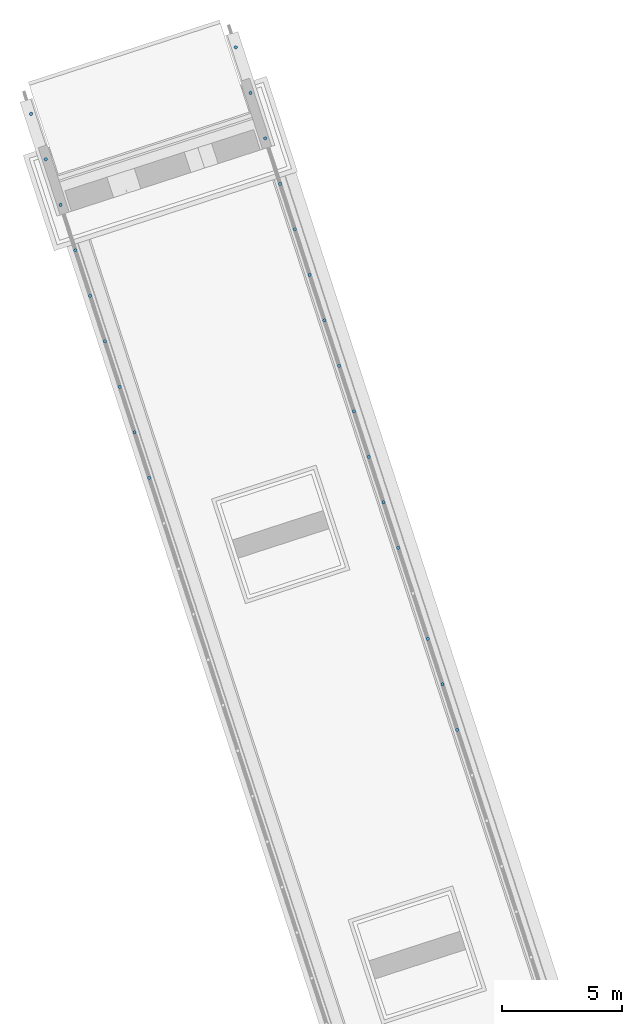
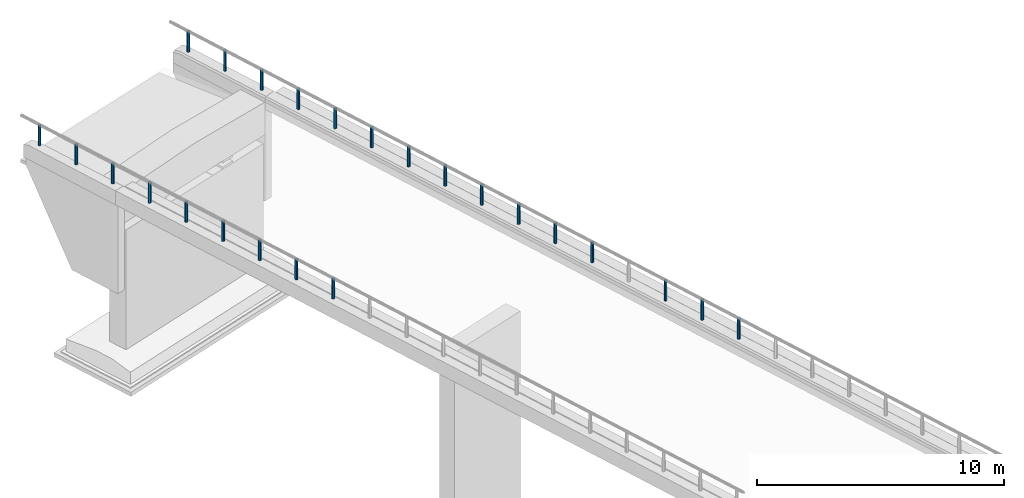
# Not in any storey, part 4 of 10: 24 members, 2 elements without a shape of their own.
"""IFC4X3_ADD2 model written with IfcOpenShell, lengths in metres."""

from ifc_helpers import new_model, entity, si_unit, converted_unit, derived_unit, direction, frame, origin, origin_2d, place, context, subcontext, project, library, spatial, circle, extrude, source, transform, mapped, type_object, type_shapes, element, aggregate, save


model = new_model("IFC4X3_ADD2")

# Units and contexts
model_context = context("Model", 3, precision=1e-05, world=origin(), true_north=direction((-0.011993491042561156, 0.9999280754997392)))
plan_context = context("Plan", 2, precision=1e-05, world=origin_2d())
body_context = subcontext(model_context, "Body", "Model", "MODEL_VIEW")
ifc_project = project(units=[si_unit("LENGTHUNIT", "METRE"), si_unit("AREAUNIT", "SQUARE_METRE"), si_unit("VOLUMEUNIT", "CUBIC_METRE"), si_unit("MASSUNIT", "GRAM", prefix="KILO"), converted_unit("TIMEUNIT", "year", entity("IfcTimeMeasure", 31557600.0), si_unit("TIMEUNIT", "SECOND"), dimensions=[0, 0, 1, 0, 0, 0, 0]), si_unit("PLANEANGLEUNIT", "RADIAN"), si_unit("THERMODYNAMICTEMPERATUREUNIT", "DEGREE_CELSIUS"), si_unit("FORCEUNIT", "NEWTON", prefix="KILO"), si_unit("PRESSUREUNIT", "PASCAL", prefix="MEGA"), si_unit("SOLIDANGLEUNIT", "STERADIAN"), derived_unit("MASSDENSITYUNIT", [(si_unit("MASSUNIT", "GRAM", prefix="KILO"), 1), (si_unit("VOLUMEUNIT", "CUBIC_METRE"), -1)]), derived_unit("MODULUSOFELASTICITYUNIT", [(si_unit("PRESSUREUNIT", "PASCAL", prefix="MEGA"), 1)]), derived_unit("THERMALEXPANSIONCOEFFICIENTUNIT", [(si_unit("THERMODYNAMICTEMPERATUREUNIT", "DEGREE_CELSIUS"), -1)])], contexts=[model_context, plan_context])
project_library = library(declared=ifc_project)

# Site, bridge, bridge parts
site_placement = place(None, origin())
site = spatial("IfcSite", under=ifc_project, at=site_placement, Name="Site BR-01", CompositionType="ELEMENT")
bridge_placement = place(site_placement, origin())
bridge = spatial("IfcBridge", under=site, at=bridge_placement, Name="BR-01", CompositionType="ELEMENT", PredefinedType="USERDEFINED")
bridge_part_1_placement = place(bridge_placement, origin())
bridge_part_1 = spatial("IfcBridgePart", under=bridge, at=bridge_part_1_placement, Name="Superstructure", CompositionType="ELEMENT", PredefinedType="SUPERSTRUCTURE", UsageType="LONGITUDINAL")
bridge_part_2_placement = place(bridge_part_1_placement, frame((0.0, 0.0, 62.729)))
bridge_part_2 = spatial("IfcBridgePart", under=bridge_part_1, at=bridge_part_2_placement, Name="Deck", CompositionType="ELEMENT", PredefinedType="DECK", UsageType="LONGITUDINAL")

# Railing, members
railing_1_placement = place(bridge_part_2_placement, frame((17.7389524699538, 118.69444238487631, 3.2577553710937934), z_axis=(0.0, 0.0, 1.0), x_axis=(0.3088039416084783, -0.951125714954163, 0.0)))
railing_1 = element("IfcRailing", 1, at=railing_1_placement, inside=bridge_part_2, Name="Bridge railing left", PredefinedType="GUARDRAIL")
member_type = type_object("IfcMemberType", Name="Railing post D140", PredefinedType="POST")
shared_shape = source(origin(), body_context, "Body", "SweptSolid", [extrude(circle(Radius=0.07), origin(), (0.0, 0.0, 1.0), 1.0)])
type_shapes(member_type, [shared_shape])
member_1_placement = place(bridge_part_2_placement, frame((17.7389524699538, 118.69444238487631, 2.2577553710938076), z_axis=(0.0, 0.0, 1.0), x_axis=(0.3088039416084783, -0.951125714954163, 0.0)))
member_1 = element("IfcMember", 2, at=member_1_placement, type_object=member_type, Name="Railing post left 01", PredefinedType="POST", context=body_context, shape_type="MappedRepresentation", body=[
    mapped(shared_shape, transform((0.0, 0.0, 0.0))),
])
member_2_placement = place(bridge_part_2_placement, frame((18.356551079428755, 116.79220608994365, 2.248882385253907), z_axis=(0.0, 0.0, 1.0), x_axis=(0.3088039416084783, -0.951125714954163, 0.0)))
member_2 = element("IfcMember", 3, at=member_2_placement, type_object=member_type, Name="Railing post left 02", PredefinedType="POST", context=body_context, shape_type="MappedRepresentation", body=[
    mapped(shared_shape, transform((0.0, 0.0, 0.0))),
])
member_3_placement = place(bridge_part_2_placement, frame((18.97414693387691, 114.88997240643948, 2.240009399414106), z_axis=(0.0, 0.0, 1.0), x_axis=(0.3088039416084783, -0.951125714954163, 0.0)))
member_3 = element("IfcMember", 4, at=member_3_placement, type_object=member_type, Name="Railing post left 03", PredefinedType="POST", context=body_context, shape_type="MappedRepresentation", body=[
    mapped(shared_shape, transform((0.0, 0.0, 0.0))),
])
member_4_placement = place(bridge_part_2_placement, frame((19.591743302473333, 112.98773919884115, 2.2311364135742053), z_axis=(0.0, 0.0, 1.0), x_axis=(0.3088039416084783, -0.951125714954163, 0.0)))
member_4 = element("IfcMember", 5, at=member_4_placement, type_object=member_type, Name="Railing post left 04", PredefinedType="POST", context=body_context, shape_type="MappedRepresentation", body=[
    mapped(shared_shape, transform((0.0, 0.0, 0.0))),
])
member_5_placement = place(bridge_part_2_placement, frame((20.209341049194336, 111.08550262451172, 2.222263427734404), z_axis=(0.0, 0.0, 1.0), x_axis=(0.3088039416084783, -0.951125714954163, 0.0)))
member_5 = element("IfcMember", 6, at=member_5_placement, type_object=member_type, Name="Railing post left 05", PredefinedType="POST", context=body_context, shape_type="MappedRepresentation", body=[
    mapped(shared_shape, transform((0.0, 0.0, 0.0))),
])
member_6_placement = place(bridge_part_2_placement, frame((20.826937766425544, 109.18326922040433, 2.213398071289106), z_axis=(0.0, 0.0, 1.0), x_axis=(0.3088039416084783, -0.951125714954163, 0.0)))
member_6 = element("IfcMember", 7, at=member_6_placement, type_object=member_type, Name="Railing post left 06", PredefinedType="POST", context=body_context, shape_type="MappedRepresentation", body=[
    mapped(shared_shape, transform((0.0, 0.0, 0.0))),
])
member_7_placement = place(bridge_part_2_placement, frame((21.444534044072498, 107.2810362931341, 2.2045250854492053), z_axis=(0.0, 0.0, 1.0), x_axis=(0.3088039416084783, -0.951125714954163, 0.0)))
member_7 = element("IfcMember", 8, at=member_7_placement, type_object=member_type, Name="Railing post left 07", PredefinedType="POST", context=body_context, shape_type="MappedRepresentation", body=[
    mapped(shared_shape, transform((0.0, 0.0, 0.0))),
])
member_8_placement = place(bridge_part_2_placement, frame((22.06213231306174, 105.37879957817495, 2.195652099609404), z_axis=(0.0, 0.0, 1.0), x_axis=(0.3088039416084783, -0.951125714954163, 0.0)))
member_8 = element("IfcMember", 9, at=member_8_placement, type_object=member_type, Name="Railing post left 08", PredefinedType="POST", context=body_context, shape_type="MappedRepresentation", body=[
    mapped(shared_shape, transform((0.0, 0.0, 0.0))),
])
member_9_placement = place(bridge_part_2_placement, frame((22.679728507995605, 103.47656631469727, 2.1867791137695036), z_axis=(0.0, 0.0, 1.0), x_axis=(0.3088039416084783, -0.951125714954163, 0.0)))
member_9 = element("IfcMember", 10, at=member_9_placement, type_object=member_type, Name="Railing post left 09", PredefinedType="POST", context=body_context, shape_type="MappedRepresentation", body=[
    mapped(shared_shape, transform((0.0, 0.0, 0.0))),
])
member_10_placement = place(bridge_part_2_placement, frame((23.297325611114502, 101.57433319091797, 2.1779061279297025), z_axis=(0.0, 0.0, 1.0), x_axis=(0.3088039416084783, -0.951125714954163, 0.0)))
member_10 = element("IfcMember", 11, at=member_10_placement, type_object=member_type, Name="Railing post left 10", PredefinedType="POST", context=body_context, shape_type="MappedRepresentation", body=[
    mapped(shared_shape, transform((0.0, 0.0, 0.0))),
])
member_11_placement = place(bridge_part_2_placement, frame((23.91492223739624, 99.6720962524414, 2.169040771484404), z_axis=(0.0, 0.0, 1.0), x_axis=(0.3088039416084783, -0.951125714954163, 0.0)))
member_11 = element("IfcMember", 12, at=member_11_placement, type_object=member_type, Name="Railing post left 11", PredefinedType="POST", context=body_context, shape_type="MappedRepresentation", body=[
    mapped(shared_shape, transform((0.0, 0.0, 0.0))),
])
member_12_placement = place(bridge_part_2_placement, frame((24.532519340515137, 97.76986312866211, 2.1601677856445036), z_axis=(0.0, 0.0, 1.0), x_axis=(0.3088039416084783, -0.951125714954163, 0.0)))
member_12 = element("IfcMember", 13, at=member_12_placement, type_object=member_type, Name="Railing post left 12", PredefinedType="POST", context=body_context, shape_type="MappedRepresentation", body=[
    mapped(shared_shape, transform((0.0, 0.0, 0.0))),
])
member_13_placement = place(bridge_part_2_placement, frame((25.76771306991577, 93.96539306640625, 2.1424218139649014), z_axis=(0.0, 0.0, 1.0), x_axis=(0.3088039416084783, -0.951125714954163, 0.0)))
member_13 = element("IfcMember", 14, at=member_13_placement, type_object=member_type, Name="Railing post left 14", PredefinedType="POST", context=body_context, shape_type="MappedRepresentation", body=[
    mapped(shared_shape, transform((0.0, 0.0, 0.0))),
])
member_14_placement = place(bridge_part_2_placement, frame((26.38530969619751, 92.06315994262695, 2.133548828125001), z_axis=(0.0, 0.0, 1.0), x_axis=(0.3088039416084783, -0.951125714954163, 0.0)))
member_14 = element("IfcMember", 15, at=member_14_placement, type_object=member_type, Name="Railing post left 15", PredefinedType="POST", context=body_context, shape_type="MappedRepresentation", body=[
    mapped(shared_shape, transform((0.0, 0.0, 0.0))),
])
member_15_placement = place(bridge_part_2_placement, frame((27.002906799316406, 90.16092681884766, 2.1246758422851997), z_axis=(0.0, 0.0, 1.0), x_axis=(0.3088039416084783, -0.951125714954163, 0.0)))
member_15 = element("IfcMember", 16, at=member_15_placement, type_object=member_type, Name="Railing post left 16", PredefinedType="POST", context=body_context, shape_type="MappedRepresentation", body=[
    mapped(shared_shape, transform((0.0, 0.0, 0.0))),
])
aggregate(railing_1, [member_1, member_2, member_3, member_4, member_5, member_6, member_7, member_8, member_9, member_10, member_11, member_12, member_13, member_14, member_15])

railing_2_placement = place(bridge_part_2_placement, frame((9.178916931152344, 115.91495513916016, 3.319721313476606), z_axis=(0.0, 0.0, 1.0), x_axis=(0.3088039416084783, -0.951125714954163, 0.0)))
railing_2 = element("IfcRailing", 17, at=railing_2_placement, inside=bridge_part_2, Name="Bridge railing right", PredefinedType="GUARDRAIL")
member_16_placement = place(bridge_part_2_placement, frame((9.178916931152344, 115.91495513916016, 2.319721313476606), z_axis=(0.0, 0.0, 1.0), x_axis=(0.3088039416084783, -0.951125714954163, 0.0)))
member_16 = element("IfcMember", 18, at=member_16_placement, type_object=member_type, Name="Railing post right 01", PredefinedType="POST", context=body_context, shape_type="MappedRepresentation", body=[
    mapped(shared_shape, transform((0.0, 0.0, 0.0))),
])
member_17_placement = place(bridge_part_2_placement, frame((9.79651165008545, 114.01272583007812, 2.3095131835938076), z_axis=(0.0, 0.0, 1.0), x_axis=(0.3088039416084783, -0.951125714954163, 0.0)))
member_17 = element("IfcMember", 19, at=member_17_placement, type_object=member_type, Name="Railing post right 02", PredefinedType="POST", context=body_context, shape_type="MappedRepresentation", body=[
    mapped(shared_shape, transform((0.0, 0.0, 0.0))),
])
member_18_placement = place(bridge_part_2_placement, frame((10.414105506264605, 112.110496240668, 2.29930505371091), z_axis=(0.0, 0.0, 1.0), x_axis=(0.3088039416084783, -0.951125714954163, 0.0)))
member_18 = element("IfcMember", 20, at=member_18_placement, type_object=member_type, Name="Railing post right 03", PredefinedType="POST", context=body_context, shape_type="MappedRepresentation", body=[
    mapped(shared_shape, transform((0.0, 0.0, 0.0))),
])
member_19_placement = place(bridge_part_2_placement, frame((11.031702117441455, 110.20826785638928, 2.2891045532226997), z_axis=(0.0, 0.0, 1.0), x_axis=(0.3088039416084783, -0.951125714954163, 0.0)))
member_19 = element("IfcMember", 21, at=member_19_placement, type_object=member_type, Name="Railing post right 04", PredefinedType="POST", context=body_context, shape_type="MappedRepresentation", body=[
    mapped(shared_shape, transform((0.0, 0.0, 0.0))),
])
member_20_placement = place(bridge_part_2_placement, frame((11.64929494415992, 108.3060414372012, 2.2788964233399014), z_axis=(0.0, 0.0, 1.0), x_axis=(0.3088039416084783, -0.951125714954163, 0.0)))
member_20 = element("IfcMember", 22, at=member_20_placement, type_object=member_type, Name="Railing post right 05", PredefinedType="POST", context=body_context, shape_type="MappedRepresentation", body=[
    mapped(shared_shape, transform((0.0, 0.0, 0.0))),
])
member_21_placement = place(bridge_part_2_placement, frame((12.266889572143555, 106.40381240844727, 2.268695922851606), z_axis=(0.0, 0.0, 1.0), x_axis=(0.3088039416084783, -0.951125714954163, 0.0)))
member_21 = element("IfcMember", 23, at=member_21_placement, type_object=member_type, Name="Railing post right 06", PredefinedType="POST", context=body_context, shape_type="MappedRepresentation", body=[
    mapped(shared_shape, transform((0.0, 0.0, 0.0))),
])
member_22_placement = place(bridge_part_2_placement, frame((12.88448429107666, 104.50158309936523, 2.2584877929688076), z_axis=(0.0, 0.0, 1.0), x_axis=(0.3088039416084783, -0.951125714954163, 0.0)))
member_22 = element("IfcMember", 24, at=member_22_placement, type_object=member_type, Name="Railing post right 07", PredefinedType="POST", context=body_context, shape_type="MappedRepresentation", body=[
    mapped(shared_shape, transform((0.0, 0.0, 0.0))),
])
member_23_placement = place(bridge_part_2_placement, frame((13.5020778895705, 102.59935724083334, 2.248287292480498), z_axis=(0.0, 0.0, 1.0), x_axis=(0.3088039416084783, -0.951125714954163, 0.0)))
member_23 = element("IfcMember", 25, at=member_23_placement, type_object=member_type, Name="Railing post right 08", PredefinedType="POST", context=body_context, shape_type="MappedRepresentation", body=[
    mapped(shared_shape, transform((0.0, 0.0, 0.0))),
])
member_24_placement = place(bridge_part_2_placement, frame((14.119673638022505, 100.69712857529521, 2.2380791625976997), z_axis=(0.0, 0.0, 1.0), x_axis=(0.3088039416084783, -0.951125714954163, 0.0)))
member_24 = element("IfcMember", 26, at=member_24_placement, type_object=member_type, Name="Railing post right 09", PredefinedType="POST", context=body_context, shape_type="MappedRepresentation", body=[
    mapped(shared_shape, transform((0.0, 0.0, 0.0))),
])
aggregate(railing_2, [member_16, member_17, member_18, member_19, member_20, member_21, member_22, member_23, member_24])

save(model, "model.ifc")
